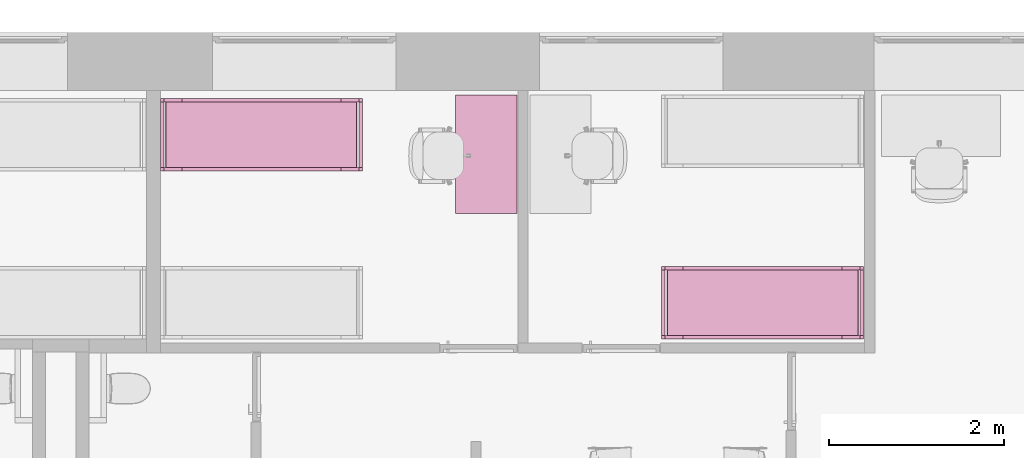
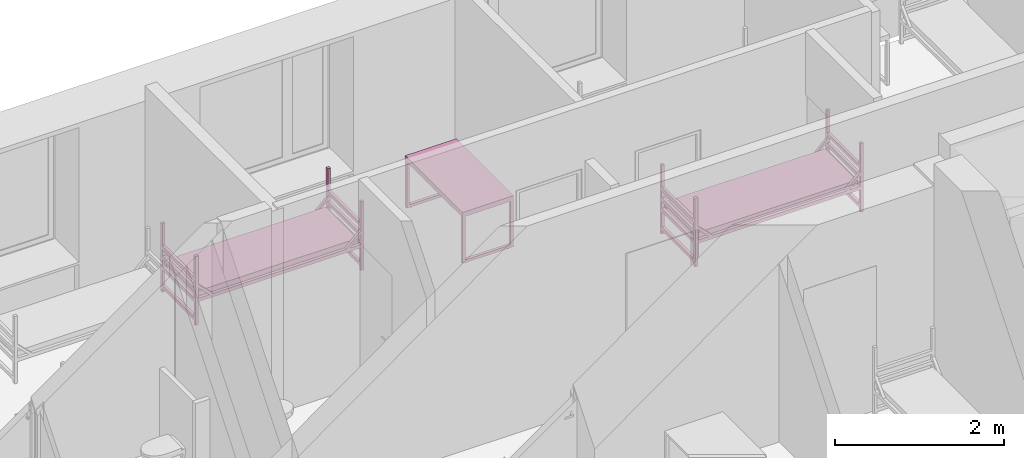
# One storey, part 40 of 48: 3 furnishings.
"""IFC2X3 building model written with IfcOpenShell, lengths in millimetres."""

from ifc_helpers import new_model, entity, si_unit, converted_unit, derived_unit, direction, frame, frame_2d, origin, origin_2d_with_axis, place, context, subcontext, project, spatial, polyline, circle_curve, parameter, trimmed, segment, composite_curve, rectangle, outline, extrude, faceted_brep, source, transform, mapped, material, material_list, type_object, type_shapes, element, save


model = new_model("IFC2X3")

# Units and contexts
model_context = context("Model", 3, precision=0.01, world=origin(), true_north=direction((6.12303176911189e-17, 1.0)))
body_context = subcontext(model_context, "Body", "Model", "MODEL_VIEW")
ifc_project = project(units=[si_unit("LENGTHUNIT", "METRE", prefix="MILLI"), si_unit("AREAUNIT", "SQUARE_METRE"), si_unit("VOLUMEUNIT", "CUBIC_METRE"), converted_unit("PLANEANGLEUNIT", "DEGREE", entity("IfcRatioMeasure", 0.0174532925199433), si_unit("PLANEANGLEUNIT", "RADIAN"), dimensions=[0, 0, 0, 0, 0, 0, 0]), si_unit("MASSUNIT", "GRAM", prefix="KILO"), derived_unit("MASSDENSITYUNIT", [(si_unit("MASSUNIT", "GRAM", prefix="KILO"), 1), (si_unit("LENGTHUNIT", "METRE"), -3)]), si_unit("TIMEUNIT", "SECOND"), si_unit("FREQUENCYUNIT", "HERTZ"), si_unit("THERMODYNAMICTEMPERATUREUNIT", "DEGREE_CELSIUS"), derived_unit("THERMALTRANSMITTANCEUNIT", [(si_unit("MASSUNIT", "GRAM", prefix="KILO"), 1), (si_unit("THERMODYNAMICTEMPERATUREUNIT", "KELVIN"), -1), (si_unit("TIMEUNIT", "SECOND"), -3)]), derived_unit("VOLUMETRICFLOWRATEUNIT", [(si_unit("LENGTHUNIT", "METRE"), 3), (si_unit("TIMEUNIT", "SECOND"), -1)]), si_unit("ELECTRICCURRENTUNIT", "AMPERE"), si_unit("ELECTRICVOLTAGEUNIT", "VOLT"), si_unit("POWERUNIT", "WATT"), si_unit("FORCEUNIT", "NEWTON", prefix="KILO"), si_unit("ILLUMINANCEUNIT", "LUX"), si_unit("LUMINOUSFLUXUNIT", "LUMEN"), si_unit("LUMINOUSINTENSITYUNIT", "CANDELA"), derived_unit("USERDEFINED", [(si_unit("MASSUNIT", "GRAM", prefix="KILO"), -1), (si_unit("LENGTHUNIT", "METRE"), -2), (si_unit("TIMEUNIT", "SECOND"), 3), (si_unit("LUMINOUSFLUXUNIT", "LUMEN"), 1)]), derived_unit("LINEARVELOCITYUNIT", [(si_unit("LENGTHUNIT", "METRE"), 1), (si_unit("TIMEUNIT", "SECOND"), -1)]), si_unit("PRESSUREUNIT", "PASCAL"), derived_unit("USERDEFINED", [(si_unit("LENGTHUNIT", "METRE"), -2), (si_unit("MASSUNIT", "GRAM", prefix="KILO"), 1), (si_unit("TIMEUNIT", "SECOND"), -2)]), derived_unit("LINEARFORCEUNIT", [(si_unit("MASSUNIT", "GRAM", prefix="KILO"), 1), (si_unit("LENGTHUNIT", "METRE"), 1), (si_unit("TIMEUNIT", "SECOND"), -2), (si_unit("LENGTHUNIT", "METRE"), -1)]), derived_unit("PLANARFORCEUNIT", [(si_unit("MASSUNIT", "GRAM", prefix="KILO"), 1), (si_unit("LENGTHUNIT", "METRE"), 1), (si_unit("TIMEUNIT", "SECOND"), -2), (si_unit("LENGTHUNIT", "METRE"), -2)])], contexts=[model_context])

# Site, building, storey, space
site_placement = place(None, origin())
site = spatial("IfcSite", under=ifc_project, at=site_placement, Name="Default", CompositionType="ELEMENT")
building_placement = place(site_placement, origin())
building = spatial("IfcBuilding", under=site, at=building_placement, Name="SMA ARH", CompositionType="ELEMENT")
storey_placement = place(building_placement, frame((0.0, 0.0, 6600.0)))
storey = spatial("IfcBuildingStorey", under=building, at=storey_placement, Name="3 Korrus", CompositionType="ELEMENT", Elevation=6599.99999999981)
space_1_placement = place(storey_placement, origin())
space_1 = spatial("IfcSpace", under=storey, at=space_1_placement, Name="3-30", CompositionType="ELEMENT", InteriorOrExteriorSpace="INTERNAL")

# Furnishing
ifc_material_1 = material(Name="Madrats")
furniture_type_1 = type_object("IfcFurnitureType", Name="Kasarmu voodi ühekordne 2308x830:Kasarmu voodi ühekordne 2308x830", material=ifc_material_1)
shared_shape_1 = source(origin(), body_context, "Body", "SweptSolid", [
    extrude(rectangle(XDim=39.9999999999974, YDim=750.000000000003, at=frame_2d((-1.35003119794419e-13, -2.8421709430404e-14), x_axis=(1.0, 0.0))), frame((1.68638457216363, -1226.7969571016, 55.0), z_axis=(0.0, 0.0, 1.0), x_axis=(0.0, -1.0, 0.0)), (0.0, 0.0, 1.0), 49.9999999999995),
    extrude(rectangle(XDim=39.9999999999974, YDim=750.000000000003, at=frame_2d((-1.35003119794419e-13, -2.8421709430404e-14), x_axis=(1.0, 0.0))), frame((1.68638457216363, -1226.7969571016, 325.0), z_axis=(0.0, 0.0, 1.0), x_axis=(0.0, -1.0, 0.0)), (0.0, 0.0, 1.0), 49.9999999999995),
    extrude(rectangle(XDim=39.9999999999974, YDim=750.000000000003, at=frame_2d((-1.35003119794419e-13, -2.8421709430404e-14), x_axis=(1.0, 0.0))), frame((1.68638457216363, -1226.7969571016, 475.0), z_axis=(0.0, 0.0, 1.0), x_axis=(0.0, -1.0, 0.0)), (0.0, 0.0, 1.0), 49.9999999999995),
    extrude(rectangle(XDim=39.9999999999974, YDim=750.000000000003, at=frame_2d((-1.35003119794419e-13, -2.8421709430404e-14), x_axis=(1.0, 0.0))), frame((1.68638457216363, -1226.7969571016, 625.0), z_axis=(0.0, 0.0, 1.0), x_axis=(0.0, -1.0, 0.0)), (0.0, 0.0, 1.0), 50.0000000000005),
    extrude(rectangle(XDim=39.9999999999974, YDim=750.000000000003, at=frame_2d((1.35003119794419e-13, -2.8421709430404e-14), x_axis=(1.0, 0.0))), frame((1.68638457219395, 1041.2030428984, 55.0), z_axis=(0.0, 0.0, 1.0), x_axis=(0.0, -1.0, 0.0)), (0.0, 0.0, 1.0), 50.0000000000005),
    extrude(rectangle(XDim=39.9999999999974, YDim=750.000000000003, at=frame_2d((1.35003119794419e-13, -2.8421709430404e-14), x_axis=(1.0, 0.0))), frame((1.68638457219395, 1041.2030428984, 325.0), z_axis=(0.0, 0.0, 1.0), x_axis=(0.0, -1.0, 0.0)), (0.0, 0.0, 1.0), 50.0000000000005),
    extrude(rectangle(XDim=39.9999999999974, YDim=750.000000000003, at=frame_2d((1.35003119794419e-13, -2.8421709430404e-14), x_axis=(1.0, 0.0))), frame((1.68638457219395, 1041.2030428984, 475.0), z_axis=(0.0, 0.0, 1.0), x_axis=(0.0, -1.0, 0.0)), (0.0, 0.0, 1.0), 50.0000000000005),
    extrude(rectangle(XDim=39.9999999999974, YDim=750.000000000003, at=frame_2d((1.35003119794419e-13, -2.8421709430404e-14), x_axis=(1.0, 0.0))), frame((1.68638457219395, 1041.2030428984, 625.0), z_axis=(0.0, 0.0, 1.0), x_axis=(0.0, -1.0, 0.0)), (0.0, 0.0, 1.0), 49.9999999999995),
    extrude(outline(composite_curve([segment(trimmed(circle_curve(frame_2d((1085.0, -40.0), x_axis=(1.0, 0.0)), 10.0), [parameter(270.0)], [parameter(0.0)], True, "PARAMETER"), True, "CONTINUOUS"), segment(polyline([(1095.0, -40.0), (1095.0, 40.0)]), True, "CONTINUOUS"), segment(trimmed(circle_curve(frame_2d((1085.0, 40.0), x_axis=(1.0, 0.0)), 10.0), [parameter(0.0)], [parameter(90.0000000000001)], True, "PARAMETER"), True, "CONTINUOUS"), segment(polyline([(1085.0, 50.0), (-1085.0, 50.0)]), True, "CONTINUOUS"), segment(trimmed(circle_curve(frame_2d((-1085.0, 40.0), x_axis=(1.0, 0.0)), 10.0), [parameter(90.0000000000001)], [parameter(180.0)], True, "PARAMETER"), True, "CONTINUOUS"), segment(polyline([(-1095.0, 40.0), (-1095.0, -40.0)]), True, "CONTINUOUS"), segment(trimmed(circle_curve(frame_2d((-1085.0, -40.0), x_axis=(1.0, 0.0)), 10.0), [parameter(180.0)], [parameter(270.0)], True, "PARAMETER"), True, "CONTINUOUS"), segment(polyline([(-1085.0, -50.0), (1085.0, -50.0)]), True, "CONTINUOUS")], self_intersect=False)), frame((-373.313615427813, -92.7969571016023, 405.0), z_axis=(1.0, 0.0, 0.0), x_axis=(0.0, -1.0, 0.0)), (0.0, 0.0, 1.0), 750.000000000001),
    extrude(outline(polyline([(-1114.0, -100.0), (1114.0, -100.0), (1114.0, -50.0), (961.59199141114, -50.0), (1114.0, 100.0), (1114.0, 150.0), (910.789321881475, -50.0), (-910.789321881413, -50.0), (-1114.0, 150.0), (-1114.0, 100.0), (-961.591991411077, -50.0), (-1114.0, -50.0), (-1114.0, -100.0)])), frame((-413.313615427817, -92.7969571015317, 430.0), z_axis=(1.0, 0.0, 0.0), x_axis=(0.0, 1.0, 0.0)), (0.0, 0.0, 1.0), 39.9999999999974),
    extrude(outline(polyline([(-1114.0, -100.0), (1114.0, -100.0), (1114.0, -50.0), (961.591991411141, -50.0), (1114.0, 100.0), (1114.0, 150.0), (910.789321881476, -50.0), (-910.789321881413, -50.0), (-1114.0, 150.0), (-1114.0, 100.0), (-961.591991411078, -50.0), (-1114.0, -50.0), (-1114.0, -100.0)])), frame((376.686384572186, -92.796957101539, 430.0), z_axis=(1.0, 0.0, 0.0), x_axis=(0.0, 1.0, 0.0)), (0.0, 0.0, 1.0), 39.9999999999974),
    extrude(rectangle(XDim=39.9999999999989, YDim=39.9999999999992, at=frame_2d((-6.75015598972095e-14, 0.0), x_axis=(1.0, 0.0))), frame((396.686384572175, -1226.79695710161, 0.0), z_axis=(0.0, 0.0, 1.0), x_axis=(0.0, 1.0, 0.0)), (0.0, 0.0, 1.0), 995.0),
    extrude(rectangle(XDim=39.9999999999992, YDim=39.9999999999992, at=frame_2d((-1.35003119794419e-13, 0.0), x_axis=(1.0, 0.0))), frame((396.686384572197, 1041.20304289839, 0.0), z_axis=(0.0, 0.0, 1.0), x_axis=(0.0, 1.0, 0.0)), (0.0, 0.0, 1.0), 995.0),
    extrude(rectangle(XDim=40.0000000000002, YDim=39.9999999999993, at=frame_2d((-1.35003119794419e-13, 0.0), x_axis=(1.0, 0.0))), frame((-393.313615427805, 1041.2030428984, 0.0), z_axis=(0.0, 0.0, 1.0), x_axis=(0.0, 1.0, 0.0)), (0.0, 0.0, 1.0), 995.0),
    extrude(rectangle(XDim=39.9999999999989, YDim=39.9999999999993, at=frame_2d((-6.75015598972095e-14, 0.0), x_axis=(1.0, 0.0))), frame((-393.313615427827, -1226.7969571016, 0.0), z_axis=(0.0, 0.0, 1.0), x_axis=(0.0, 1.0, 0.0)), (0.0, 0.0, 1.0), 995.0),
])
type_shapes(furniture_type_1, [shared_shape_1])
furnishing_1_placement = place(space_1_placement, frame((30348.2030428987, 10071.3136154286, 0.0), z_axis=(0.0, 0.0, 1.0), x_axis=(0.0, 1.0, 0.0)))
element("IfcFurnishingElement", 1, at=furnishing_1_placement, inside=space_1, type_object=furniture_type_1, material=ifc_material_1, Name="Kasarmu voodi ühekordne 2308x830:Kasarmu voodi ühekordne 2308x830", ObjectType="Kasarmu voodi ühekordne 2308x830:Kasarmu voodi ühekordne 2308x830", context=body_context, shape_type="MappedRepresentation", body=[
    mapped(shared_shape_1, transform((0.0, 0.0, 0.0), scale=1.0)),
])

# Space
space_2_placement = place(storey_placement, origin())
space_2 = spatial("IfcSpace", under=storey, at=space_2_placement, Name="3-29", CompositionType="ELEMENT", InteriorOrExteriorSpace="INTERNAL")

# Furnishings
furniture_type_2 = type_object("IfcFurnitureType", Name="Kasarmu voodi ühekordne 2308x830:Kasarmu voodi ühekordne 2308x830", material=ifc_material_1)
shared_shape_2 = source(origin(), body_context, "Body", "SweptSolid", [
    extrude(rectangle(XDim=750.000000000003, YDim=39.9999999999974, at=frame_2d((0.0, 1.35003119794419e-13), x_axis=(1.0, 0.0))), frame((1.68638457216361, 1226.7969571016, 55.0)), (0.0, 0.0, 1.0), 49.9999999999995),
    extrude(rectangle(XDim=750.000000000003, YDim=39.9999999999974, at=frame_2d((0.0, 1.35003119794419e-13), x_axis=(1.0, 0.0))), frame((1.68638457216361, 1226.7969571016, 325.0)), (0.0, 0.0, 1.0), 49.9999999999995),
    extrude(rectangle(XDim=750.000000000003, YDim=39.9999999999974, at=frame_2d((0.0, 1.35003119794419e-13), x_axis=(1.0, 0.0))), frame((1.68638457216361, 1226.7969571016, 475.0)), (0.0, 0.0, 1.0), 49.9999999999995),
    extrude(rectangle(XDim=750.000000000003, YDim=39.9999999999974, at=frame_2d((0.0, 1.35003119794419e-13), x_axis=(1.0, 0.0))), frame((1.68638457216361, 1226.7969571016, 625.0)), (0.0, 0.0, 1.0), 50.0000000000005),
    extrude(rectangle(XDim=750.000000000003, YDim=39.9999999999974, at=origin_2d_with_axis()), frame((1.68638457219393, -1041.2030428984, 55.0)), (0.0, 0.0, 1.0), 50.0000000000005),
    extrude(rectangle(XDim=750.000000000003, YDim=39.9999999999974, at=origin_2d_with_axis()), frame((1.68638457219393, -1041.2030428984, 325.0)), (0.0, 0.0, 1.0), 50.0000000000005),
    extrude(rectangle(XDim=750.000000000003, YDim=39.9999999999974, at=origin_2d_with_axis()), frame((1.68638457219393, -1041.2030428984, 475.0)), (0.0, 0.0, 1.0), 50.0000000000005),
    extrude(rectangle(XDim=750.000000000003, YDim=39.9999999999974, at=origin_2d_with_axis()), frame((1.68638457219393, -1041.2030428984, 625.0)), (0.0, 0.0, 1.0), 49.9999999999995),
    extrude(outline(composite_curve([segment(polyline([(-1085.0, -50.0), (1085.0, -50.0)]), True, "CONTINUOUS"), segment(trimmed(circle_curve(frame_2d((1085.0, -40.0), x_axis=(-1.0, 0.0)), 10.0), [parameter(90.0000000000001)], [parameter(180.0)], True, "PARAMETER"), True, "CONTINUOUS"), segment(polyline([(1095.0, -40.0), (1095.0, 40.0)]), True, "CONTINUOUS"), segment(trimmed(circle_curve(frame_2d((1085.0, 40.0), x_axis=(-1.0, 0.0)), 10.0), [parameter(180.0)], [parameter(270.0)], True, "PARAMETER"), True, "CONTINUOUS"), segment(polyline([(1085.0, 50.0), (-1085.0, 50.0)]), True, "CONTINUOUS"), segment(trimmed(circle_curve(frame_2d((-1085.0, 40.0), x_axis=(-1.0, 0.0)), 10.0), [parameter(270.0)], [parameter(0.0)], True, "PARAMETER"), True, "CONTINUOUS"), segment(polyline([(-1095.0, 40.0), (-1095.0, -40.0)]), True, "CONTINUOUS"), segment(trimmed(circle_curve(frame_2d((-1085.0, -40.0), x_axis=(-1.0, 0.0)), 10.0), [parameter(0.0)], [parameter(90.0000000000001)], True, "PARAMETER"), True, "CONTINUOUS")], self_intersect=False)), frame((-373.313615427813, 92.7969571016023, 405.0), z_axis=(1.0, 0.0, 0.0), x_axis=(0.0, -1.0, 0.0)), (0.0, 0.0, 1.0), 750.000000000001),
    extrude(outline(polyline([(-100.0, -1114.0), (-50.0, -1114.0), (-50.0, -961.591991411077), (100.0, -1114.0), (150.0, -1114.0), (-50.0, -910.789321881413), (-50.0, 910.789321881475), (150.0, 1114.0), (100.0, 1114.0), (-50.0, 961.591991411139), (-50.0, 1114.0), (-100.0, 1114.0), (-100.0, -1114.0)])), frame((-413.313615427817, 92.7969571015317, 430.0), z_axis=(1.0, 0.0, 0.0), x_axis=(0.0, 0.0, 1.0)), (0.0, 0.0, 1.0), 39.9999999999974),
    extrude(outline(polyline([(-100.0, -1114.0), (-50.0, -1114.0), (-50.0, -961.591991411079), (100.0, -1114.0), (150.0, -1114.0), (-50.0, -910.789321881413), (-50.0, 910.789321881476), (150.0, 1114.0), (100.0, 1114.0), (-50.0, 961.591991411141), (-50.0, 1114.0), (-100.0, 1114.0), (-100.0, -1114.0)])), frame((376.686384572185, 92.796957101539, 430.0), z_axis=(1.0, 0.0, 0.0), x_axis=(0.0, 0.0, 1.0)), (0.0, 0.0, 1.0), 39.9999999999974),
    extrude(rectangle(XDim=39.9999999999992, YDim=39.9999999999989, at=frame_2d((0.0, -6.75015598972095e-14), x_axis=(1.0, 0.0))), frame((396.686384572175, 1226.79695710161, 0.0), z_axis=(0.0, 0.0, 1.0), x_axis=(-1.0, 0.0, 0.0)), (0.0, 0.0, 1.0), 995.0),
    extrude(rectangle(XDim=39.9999999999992, YDim=39.9999999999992, at=origin_2d_with_axis()), frame((396.686384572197, -1041.20304289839, 0.0), z_axis=(0.0, 0.0, 1.0), x_axis=(-1.0, 0.0, 0.0)), (0.0, 0.0, 1.0), 995.0),
    extrude(rectangle(XDim=39.9999999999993, YDim=40.0000000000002, at=origin_2d_with_axis()), frame((-393.313615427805, -1041.2030428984, 0.0), z_axis=(0.0, 0.0, 1.0), x_axis=(-1.0, 0.0, 0.0)), (0.0, 0.0, 1.0), 995.0),
    extrude(rectangle(XDim=39.9999999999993, YDim=39.9999999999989, at=frame_2d((0.0, -6.75015598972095e-14), x_axis=(1.0, 0.0))), frame((-393.313615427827, 1226.7969571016, 0.0), z_axis=(0.0, 0.0, 1.0), x_axis=(-1.0, 0.0, 0.0)), (0.0, 0.0, 1.0), 995.0),
])
type_shapes(furniture_type_2, [shared_shape_2])
furnishing_2_placement = place(space_2_placement, frame((24800.7969571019, 11990.0, 0.0), z_axis=(0.0, 0.0, 1.0), x_axis=(0.0, 1.0, 0.0)))
element("IfcFurnishingElement", 2, at=furnishing_2_placement, inside=space_2, type_object=furniture_type_2, material=ifc_material_1, Name="Kasarmu voodi ühekordne 2308x830:Kasarmu voodi ühekordne 2308x830", ObjectType="Kasarmu voodi ühekordne 2308x830:Kasarmu voodi ühekordne 2308x830", context=body_context, shape_type="MappedRepresentation", body=[
    mapped(shared_shape_2, transform((0.0, 0.0, 0.0), scale=1.0)),
])
ifc_material_2 = material(Name="<Unnamed>")
ifc_material_list = material_list([ifc_material_2, ifc_material_2])
furniture_type_3 = type_object("IfcFurnitureType", Name="kirjutuslaud 1360x700mm:kirjutuslaud 1360x700mm", material=ifc_material_list)
shared_shape_3 = source(origin(), body_context, "Body", "Brep", [
    faceted_brep([(680.0, 350.0, 720.0), (680.0, 350.0, 750.0), (680.0, -350.0, 750.0), (680.0, -350.0, 720.0), (-680.0, 350.0, 720.0), (-680.0, -350.0, 720.0), (-680.0, -350.0, 750.0), (-680.0, 350.0, 750.0)], [[[0, 1, 2, 3]], [[4, 5, 6, 7]], [[3, 5, 4, 0]], [[2, 6, 5, 3]], [[1, 7, 6, 2]], [[0, 4, 7, 1]]]),
    faceted_brep([(-640.0, 310.0, 680.0), (-640.0, 310.0, 720.0), (-640.0, -310.0, 720.0), (-640.0, -310.0, 680.0), (-680.0, 350.0, 720.0), (-680.0, 350.0, 10.0), (-680.0, -350.0, 10.0), (-680.0, -350.0, 720.0), (-680.0, -310.0, 680.0), (-680.0, -310.0, 50.0), (-680.0, 310.0, 50.0), (-680.0, 310.0, 680.0), (680.0, 350.0, 720.0), (680.0, 350.0, 10.0), (640.0, 350.0, 10.0), (640.0, 350.0, 680.0), (-640.0, 350.0, 680.0), (-640.0, 350.0, 10.0), (-640.0, -350.0, 10.0), (-640.0, -350.0, 680.0), (640.0, -350.0, 680.0), (640.0, -350.0, 10.0), (680.0, -350.0, 10.0), (680.0, -350.0, 720.0), (640.0, 310.0, 720.0), (640.0, -310.0, 720.0), (-640.0, -310.0, 50.0), (-640.0, 310.0, 50.0), (640.0, -310.0, 680.0), (640.0, 310.0, 680.0), (680.0, -310.0, 680.0), (680.0, 310.0, 680.0), (680.0, 310.0, 50.0), (680.0, -310.0, 50.0), (640.0, -310.0, 50.0), (640.0, 310.0, 50.0)], [[[0, 1, 2, 3]], [[4, 5, 6, 7], [8, 9, 10, 11]], [[4, 12, 13, 14, 15, 16, 17, 5]], [[18, 6, 5, 17]], [[6, 18, 19, 20, 21, 22, 23, 7]], [[2, 1, 24, 25], [23, 12, 4, 7]], [[26, 9, 8, 3]], [[27, 10, 9, 26]], [[0, 11, 10, 27]], [[3, 8, 11, 0]], [[28, 20, 19, 3]], [[25, 28, 3, 2]], [[1, 0, 29, 24]], [[12, 23, 22, 13], [30, 31, 32, 33]], [[21, 20, 28, 34, 35, 29, 15, 14]], [[22, 21, 14, 13]], [[33, 34, 28, 30]], [[32, 35, 34, 33]], [[31, 29, 35, 32]], [[30, 28, 29, 31]], [[28, 25, 24, 29]], [[15, 29, 0, 16]], [[17, 16, 0, 27, 26, 3, 19, 18]]], outer=[[True], [True, False], [True], [True], [True], [False, True], [True], [True], [True], [True], [True], [True], [True], [True, False], [True], [True], [True], [True], [True], [True], [True], [True], [True]]),
    faceted_brep([(-655.964885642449, 270.466136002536, 0.0), (-659.847171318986, 269.955023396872, 0.0), (-663.729456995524, 270.466136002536, 0.0), (-667.347171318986, 271.964642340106, 0.0), (-670.453773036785, 274.348421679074, 0.0), (-672.837552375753, 277.455023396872, 0.0), (-674.336058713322, 281.072737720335, 0.0), (-674.847171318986, 284.955023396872, 0.0), (-674.336058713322, 288.83730907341, 0.0), (-672.837552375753, 292.455023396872, 0.0), (-670.453773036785, 295.561625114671, 0.0), (-667.347171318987, 297.945404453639, 0.0), (-663.729456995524, 299.443910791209, 0.0), (-659.847171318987, 299.955023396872, 0.0), (-655.964885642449, 299.443910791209, 0.0), (-652.347171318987, 297.945404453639, 0.0), (-649.240569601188, 295.561625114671, 0.0), (-646.85679026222, 292.455023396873, 0.0), (-645.35828392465, 288.83730907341, 0.0), (-644.847171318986, 284.955023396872, 0.0), (-645.35828392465, 281.072737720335, 0.0), (-646.85679026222, 277.455023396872, 0.0), (-649.240569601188, 274.348421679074, 0.0), (-652.347171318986, 271.964642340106, 0.0), (-649.240569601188, 295.561625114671, 10.0), (-652.347171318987, 297.945404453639, 10.0), (-655.964885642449, 299.443910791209, 10.0), (-659.847171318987, 299.955023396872, 10.0), (-663.729456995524, 299.443910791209, 10.0), (-667.347171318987, 297.945404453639, 10.0), (-670.453773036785, 295.561625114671, 10.0), (-672.837552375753, 292.455023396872, 10.0), (-674.336058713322, 288.83730907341, 10.0), (-674.847171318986, 284.955023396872, 10.0), (-674.336058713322, 281.072737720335, 10.0), (-672.837552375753, 277.455023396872, 10.0), (-670.453773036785, 274.348421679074, 10.0), (-667.347171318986, 271.964642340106, 10.0), (-663.729456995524, 270.466136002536, 10.0), (-659.847171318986, 269.955023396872, 10.0), (-655.964885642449, 270.466136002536, 10.0), (-652.347171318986, 271.964642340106, 10.0), (-649.240569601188, 274.348421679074, 10.0), (-646.85679026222, 277.455023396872, 10.0), (-645.35828392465, 281.072737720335, 10.0), (-644.847171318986, 284.955023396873, 10.0), (-645.35828392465, 288.83730907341, 10.0), (-646.85679026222, 292.455023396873, 10.0)], [[[0, 1, 2, 3, 4, 5, 6, 7, 8, 9, 10, 11, 12, 13, 14, 15, 16, 17, 18, 19, 20, 21, 22, 23]], [[24, 25, 26, 27, 28, 29, 30, 31, 32, 33, 34, 35, 36, 37, 38, 39, 40, 41, 42, 43, 44, 45, 46, 47]], [[7, 33, 32, 8]], [[8, 32, 31, 9]], [[11, 10, 30, 29]], [[30, 10, 9, 31]], [[12, 11, 29, 28]], [[12, 28, 27, 13]], [[13, 27, 26, 14]], [[14, 26, 25, 15]], [[17, 16, 24, 47]], [[24, 16, 15, 25]], [[18, 17, 47, 46]], [[18, 46, 45, 19]], [[19, 45, 44, 20]], [[20, 44, 43, 21]], [[23, 22, 42, 41]], [[42, 22, 21, 43]], [[0, 23, 41, 40]], [[0, 40, 39, 1]], [[1, 39, 38, 2]], [[2, 38, 37, 3]], [[5, 4, 36, 35]], [[36, 4, 3, 37]], [[6, 5, 35, 34]], [[6, 34, 33, 7]]]),
    faceted_brep([(-649.240569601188, -274.348421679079, 10.0), (-652.347171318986, -271.964642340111, 10.0), (-655.964885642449, -270.466136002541, 10.0), (-659.847171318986, -269.955023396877, 10.0), (-663.729456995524, -270.466136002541, 10.0), (-667.347171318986, -271.964642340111, 10.0), (-670.453773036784, -274.348421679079, 10.0), (-672.837552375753, -277.455023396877, 10.0), (-674.336058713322, -281.07273772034, 10.0), (-674.847171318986, -284.955023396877, 10.0), (-674.336058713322, -288.837309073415, 10.0), (-672.837552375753, -292.455023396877, 10.0), (-670.453773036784, -295.561625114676, 10.0), (-667.347171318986, -297.945404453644, 10.0), (-663.729456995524, -299.443910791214, 10.0), (-659.847171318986, -299.955023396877, 10.0), (-655.964885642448, -299.443910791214, 10.0), (-652.347171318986, -297.945404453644, 10.0), (-649.240569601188, -295.561625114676, 10.0), (-646.85679026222, -292.455023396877, 10.0), (-645.35828392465, -288.837309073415, 10.0), (-644.847171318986, -284.955023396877, 10.0), (-645.35828392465, -281.07273772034, 10.0), (-646.85679026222, -277.455023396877, 10.0), (-659.847171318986, -299.955023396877, 0.0), (-663.729456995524, -299.443910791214, 0.0), (-667.347171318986, -297.945404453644, 0.0), (-670.453773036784, -295.561625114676, 0.0), (-672.837552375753, -292.455023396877, 0.0), (-674.336058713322, -288.837309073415, 0.0), (-674.847171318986, -284.955023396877, 0.0), (-674.336058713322, -281.07273772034, 0.0), (-672.837552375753, -277.455023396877, 0.0), (-670.453773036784, -274.348421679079, 0.0), (-667.347171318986, -271.964642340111, 0.0), (-663.729456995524, -270.466136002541, 0.0), (-659.847171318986, -269.955023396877, 0.0), (-655.964885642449, -270.466136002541, 0.0), (-652.347171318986, -271.964642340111, 0.0), (-649.240569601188, -274.348421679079, 0.0), (-646.85679026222, -277.455023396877, 0.0), (-645.35828392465, -281.07273772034, 0.0), (-644.847171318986, -284.955023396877, 0.0), (-645.35828392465, -288.837309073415, 0.0), (-646.85679026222, -292.455023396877, 0.0), (-649.240569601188, -295.561625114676, 0.0), (-652.347171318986, -297.945404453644, 0.0), (-655.964885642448, -299.443910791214, 0.0)], [[[0, 1, 2, 3, 4, 5, 6, 7, 8, 9, 10, 11, 12, 13, 14, 15, 16, 17, 18, 19, 20, 21, 22, 23]], [[24, 25, 26, 27, 28, 29, 30, 31, 32, 33, 34, 35, 36, 37, 38, 39, 40, 41, 42, 43, 44, 45, 46, 47]], [[30, 9, 8, 31]], [[31, 8, 7, 32]], [[34, 33, 6, 5]], [[6, 33, 32, 7]], [[35, 34, 5, 4]], [[35, 4, 3, 36]], [[36, 3, 2, 37]], [[37, 2, 1, 38]], [[40, 39, 0, 23]], [[0, 39, 38, 1]], [[41, 40, 23, 22]], [[41, 22, 21, 42]], [[42, 21, 20, 43]], [[43, 20, 19, 44]], [[46, 45, 18, 17]], [[18, 45, 44, 19]], [[47, 46, 17, 16]], [[47, 16, 15, 24]], [[24, 15, 14, 25]], [[25, 14, 13, 26]], [[28, 27, 12, 11]], [[12, 27, 26, 13]], [[29, 28, 11, 10]], [[29, 10, 9, 30]]]),
    faceted_brep([(664.035114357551, 270.466136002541, 0.0), (660.152828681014, 269.955023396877, 0.0), (656.270543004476, 270.466136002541, 0.0), (652.652828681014, 271.96464234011, 0.0), (649.546226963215, 274.348421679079, 0.0), (647.162447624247, 277.455023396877, 0.0), (645.663941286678, 281.072737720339, 0.0), (645.152828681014, 284.955023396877, 0.0), (645.663941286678, 288.837309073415, 0.0), (647.162447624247, 292.455023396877, 0.0), (649.546226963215, 295.561625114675, 0.0), (652.652828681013, 297.945404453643, 0.0), (656.270543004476, 299.443910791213, 0.0), (660.152828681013, 299.955023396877, 0.0), (664.035114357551, 299.443910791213, 0.0), (667.652828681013, 297.945404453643, 0.0), (670.759430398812, 295.561625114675, 0.0), (673.14320973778, 292.455023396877, 0.0), (674.64171607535, 288.837309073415, 0.0), (675.152828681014, 284.955023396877, 0.0), (674.64171607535, 281.072737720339, 0.0), (673.14320973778, 277.455023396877, 0.0), (670.759430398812, 274.348421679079, 0.0), (667.652828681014, 271.96464234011, 0.0), (670.759430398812, 295.561625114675, 10.0), (667.652828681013, 297.945404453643, 10.0), (664.035114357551, 299.443910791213, 10.0), (660.152828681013, 299.955023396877, 10.0), (656.270543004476, 299.443910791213, 10.0), (652.652828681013, 297.945404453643, 10.0), (649.546226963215, 295.561625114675, 10.0), (647.162447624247, 292.455023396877, 10.0), (645.663941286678, 288.837309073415, 10.0), (645.152828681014, 284.955023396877, 10.0), (645.663941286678, 281.072737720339, 10.0), (647.162447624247, 277.455023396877, 10.0), (649.546226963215, 274.348421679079, 10.0), (652.652828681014, 271.96464234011, 10.0), (656.270543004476, 270.466136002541, 10.0), (660.152828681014, 269.955023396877, 10.0), (664.035114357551, 270.466136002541, 10.0), (667.652828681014, 271.96464234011, 10.0), (670.759430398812, 274.348421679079, 10.0), (673.14320973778, 277.455023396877, 10.0), (674.64171607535, 281.072737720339, 10.0), (675.152828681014, 284.955023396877, 10.0), (674.64171607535, 288.837309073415, 10.0), (673.14320973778, 292.455023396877, 10.0)], [[[0, 1, 2, 3, 4, 5, 6, 7, 8, 9, 10, 11, 12, 13, 14, 15, 16, 17, 18, 19, 20, 21, 22, 23]], [[24, 25, 26, 27, 28, 29, 30, 31, 32, 33, 34, 35, 36, 37, 38, 39, 40, 41, 42, 43, 44, 45, 46, 47]], [[7, 33, 32, 8]], [[8, 32, 31, 9]], [[11, 10, 30, 29]], [[30, 10, 9, 31]], [[12, 11, 29, 28]], [[12, 28, 27, 13]], [[13, 27, 26, 14]], [[14, 26, 25, 15]], [[17, 16, 24, 47]], [[24, 16, 15, 25]], [[18, 17, 47, 46]], [[18, 46, 45, 19]], [[19, 45, 44, 20]], [[20, 44, 43, 21]], [[23, 22, 42, 41]], [[42, 22, 21, 43]], [[0, 23, 41, 40]], [[0, 40, 39, 1]], [[1, 39, 38, 2]], [[2, 38, 37, 3]], [[5, 4, 36, 35]], [[36, 4, 3, 37]], [[6, 5, 35, 34]], [[6, 34, 33, 7]]]),
    faceted_brep([(670.759430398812, -274.348421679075, 10.0), (667.652828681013, -271.964642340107, 10.0), (664.035114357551, -270.466136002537, 10.0), (660.152828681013, -269.955023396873, 10.0), (656.270543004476, -270.466136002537, 10.0), (652.652828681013, -271.964642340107, 10.0), (649.546226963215, -274.348421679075, 10.0), (647.162447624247, -277.455023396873, 10.0), (645.663941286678, -281.072737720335, 10.0), (645.152828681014, -284.955023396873, 10.0), (645.663941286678, -288.837309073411, 10.0), (647.162447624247, -292.455023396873, 10.0), (649.546226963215, -295.561625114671, 10.0), (652.652828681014, -297.94540445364, 10.0), (656.270543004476, -299.443910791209, 10.0), (660.152828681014, -299.955023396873, 10.0), (664.035114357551, -299.443910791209, 10.0), (667.652828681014, -297.94540445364, 10.0), (670.759430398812, -295.561625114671, 10.0), (673.14320973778, -292.455023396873, 10.0), (674.64171607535, -288.837309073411, 10.0), (675.152828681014, -284.955023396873, 10.0), (674.64171607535, -281.072737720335, 10.0), (673.14320973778, -277.455023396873, 10.0), (660.152828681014, -299.955023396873, 0.0), (656.270543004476, -299.443910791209, 0.0), (652.652828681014, -297.94540445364, 0.0), (649.546226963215, -295.561625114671, 0.0), (647.162447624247, -292.455023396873, 0.0), (645.663941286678, -288.837309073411, 0.0), (645.152828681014, -284.955023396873, 0.0), (645.663941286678, -281.072737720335, 0.0), (647.162447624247, -277.455023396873, 0.0), (649.546226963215, -274.348421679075, 0.0), (652.652828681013, -271.964642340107, 0.0), (656.270543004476, -270.466136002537, 0.0), (660.152828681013, -269.955023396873, 0.0), (664.035114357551, -270.466136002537, 0.0), (667.652828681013, -271.964642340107, 0.0), (670.759430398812, -274.348421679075, 0.0), (673.14320973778, -277.455023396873, 0.0), (674.64171607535, -281.072737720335, 0.0), (675.152828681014, -284.955023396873, 0.0), (674.64171607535, -288.837309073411, 0.0), (673.14320973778, -292.455023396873, 0.0), (670.759430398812, -295.561625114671, 0.0), (667.652828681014, -297.94540445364, 0.0), (664.035114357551, -299.443910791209, 0.0)], [[[0, 1, 2, 3, 4, 5, 6, 7, 8, 9, 10, 11, 12, 13, 14, 15, 16, 17, 18, 19, 20, 21, 22, 23]], [[24, 25, 26, 27, 28, 29, 30, 31, 32, 33, 34, 35, 36, 37, 38, 39, 40, 41, 42, 43, 44, 45, 46, 47]], [[30, 9, 8, 31]], [[31, 8, 7, 32]], [[34, 33, 6, 5]], [[6, 33, 32, 7]], [[35, 34, 5, 4]], [[35, 4, 3, 36]], [[36, 3, 2, 37]], [[37, 2, 1, 38]], [[40, 39, 0, 23]], [[0, 39, 38, 1]], [[41, 40, 23, 22]], [[41, 22, 21, 42]], [[42, 21, 20, 43]], [[43, 20, 19, 44]], [[46, 45, 18, 17]], [[18, 45, 44, 19]], [[47, 46, 17, 16]], [[47, 16, 15, 24]], [[24, 15, 14, 25]], [[25, 14, 13, 26]], [[28, 27, 12, 11]], [[12, 27, 26, 13]], [[29, 28, 11, 10]], [[29, 10, 9, 30]]]),
])
type_shapes(furniture_type_3, [shared_shape_3])
furnishing_3_placement = place(space_2_placement, frame((27279.0, 11770.0, 0.0), z_axis=(0.0, 0.0, 1.0), x_axis=(0.0, 1.0, 0.0)))
element("IfcFurnishingElement", 3, at=furnishing_3_placement, inside=space_2, type_object=furniture_type_3, Name="kirjutuslaud 1360x700mm:kirjutuslaud 1360x700mm", ObjectType="kirjutuslaud 1360x700mm:kirjutuslaud 1360x700mm", context=body_context, shape_type="MappedRepresentation", body=[
    mapped(shared_shape_3, transform((0.0, 0.0, 0.0), scale=1.0)),
])

save(model, "model.ifc")
